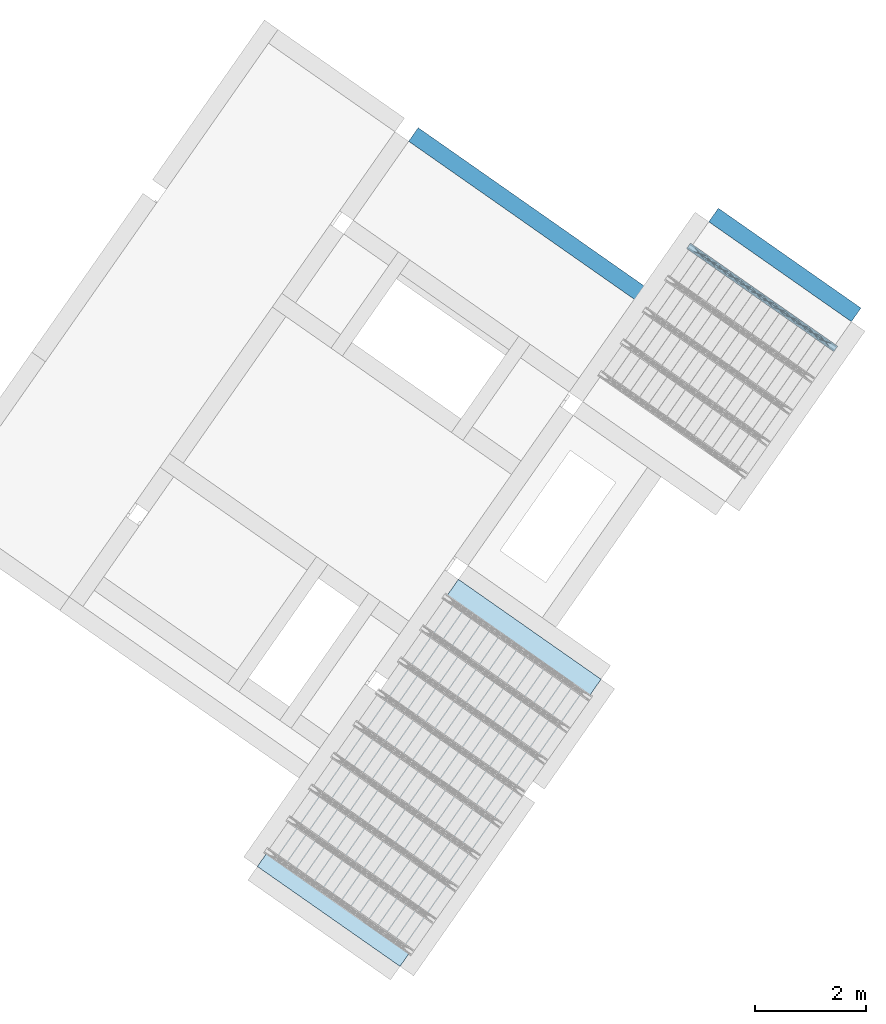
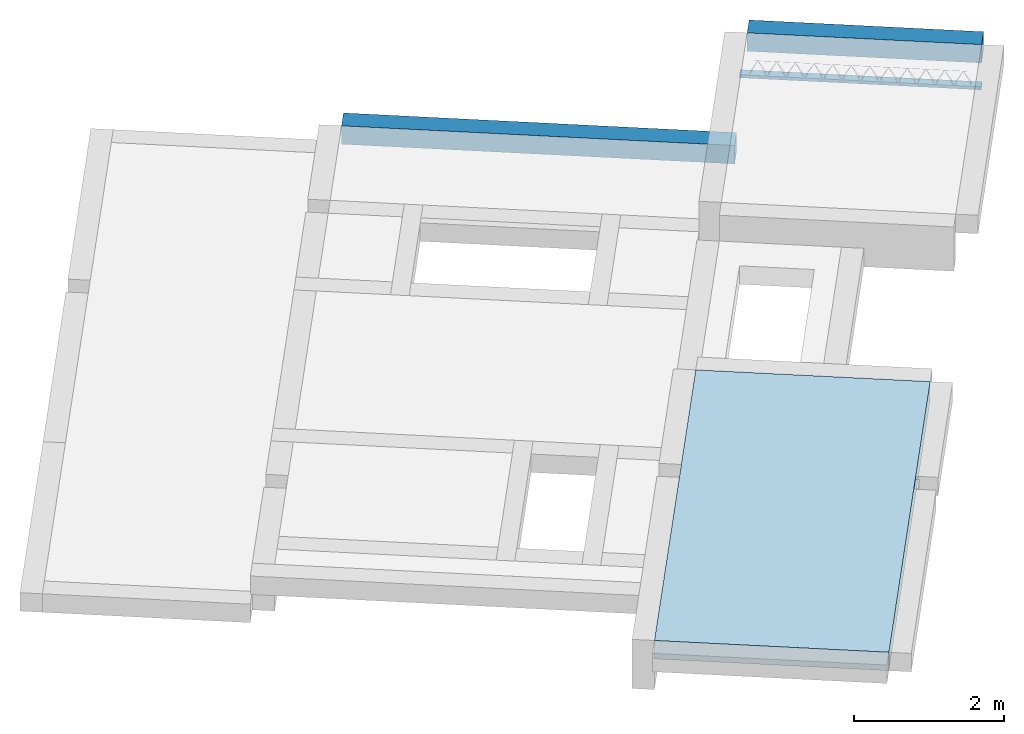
# One storey, part 28 of 46: 3 beams, 1 slab.
"""IFC2X3 building model written with IfcOpenShell, lengths in metres."""

from ifc_helpers import new_model, entity, si_unit, converted_unit, derived_unit, direction, frame, frame_2d, origin, origin_2d_with_axis, place, context, subcontext, project, spatial, rectangle, circle, extrude, material, type_object, element, save


model = new_model("IFC2X3")

# Units and contexts
model_context = context("Model", 3, precision=1e-05, world=origin(), true_north=direction((6.123031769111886e-17, 1.0)))
body_context = subcontext(model_context, "Body", "Model", "MODEL_VIEW")
ifc_project = project(units=[si_unit("LENGTHUNIT", "METRE"), si_unit("AREAUNIT", "SQUARE_METRE"), si_unit("VOLUMEUNIT", "CUBIC_METRE"), converted_unit("PLANEANGLEUNIT", "DEGREE", entity("IfcPlaneAngleMeasure", 0.017453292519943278), si_unit("PLANEANGLEUNIT", "RADIAN"), dimensions=[0, 0, 0, 0, 0, 0, 0]), si_unit("MASSUNIT", "GRAM", prefix="KILO"), derived_unit("MASSDENSITYUNIT", [(si_unit("MASSUNIT", "GRAM", prefix="KILO"), 1), (si_unit("LENGTHUNIT", "METRE"), -3)]), derived_unit("IONCONCENTRATIONUNIT", [(si_unit("MASSUNIT", "GRAM", prefix="KILO"), 1), (si_unit("LENGTHUNIT", "METRE"), -3)]), derived_unit("MOMENTOFINERTIAUNIT", [(si_unit("LENGTHUNIT", "METRE"), 4)]), si_unit("TIMEUNIT", "SECOND"), si_unit("FREQUENCYUNIT", "HERTZ"), si_unit("THERMODYNAMICTEMPERATUREUNIT", "DEGREE_CELSIUS"), derived_unit("THERMALTRANSMITTANCEUNIT", [(si_unit("MASSUNIT", "GRAM", prefix="KILO"), 1), (si_unit("THERMODYNAMICTEMPERATUREUNIT", "KELVIN"), -1), (si_unit("TIMEUNIT", "SECOND"), -3)]), derived_unit("THERMALCONDUCTANCEUNIT", [(si_unit("MASSUNIT", "GRAM", prefix="KILO"), 1), (si_unit("THERMODYNAMICTEMPERATUREUNIT", "KELVIN"), -1), (si_unit("TIMEUNIT", "SECOND"), -3), (si_unit("LENGTHUNIT", "METRE"), 1)]), derived_unit("VOLUMETRICFLOWRATEUNIT", [(si_unit("LENGTHUNIT", "METRE", prefix="DECI"), 3), (si_unit("TIMEUNIT", "SECOND"), -1)]), derived_unit("MASSFLOWRATEUNIT", [(si_unit("MASSUNIT", "GRAM", prefix="KILO"), 1), (si_unit("TIMEUNIT", "SECOND"), -1)]), derived_unit("ROTATIONALFREQUENCYUNIT", [(si_unit("TIMEUNIT", "SECOND"), -1)]), si_unit("ELECTRICCURRENTUNIT", "AMPERE"), si_unit("ELECTRICVOLTAGEUNIT", "VOLT"), si_unit("POWERUNIT", "WATT"), si_unit("FORCEUNIT", "NEWTON", prefix="KILO"), si_unit("ILLUMINANCEUNIT", "LUX"), si_unit("LUMINOUSFLUXUNIT", "LUMEN"), si_unit("LUMINOUSINTENSITYUNIT", "CANDELA"), si_unit("ENERGYUNIT", "JOULE"), derived_unit("USERDEFINED", [(si_unit("MASSUNIT", "GRAM", prefix="KILO"), -1), (si_unit("LENGTHUNIT", "METRE"), -2), (si_unit("TIMEUNIT", "SECOND"), 3), (si_unit("LUMINOUSFLUXUNIT", "LUMEN"), 1)]), derived_unit("USERDEFINED", [(si_unit("MASSUNIT", "GRAM", prefix="KILO"), 1), (si_unit("TIMEUNIT", "SECOND"), -3), (si_unit("LENGTHUNIT", "METRE"), 3), (si_unit("ELECTRICCURRENTUNIT", "AMPERE"), -2)]), derived_unit("SOUNDPOWERUNIT", [(si_unit("MASSUNIT", "GRAM", prefix="KILO"), 1), (si_unit("TIMEUNIT", "SECOND"), -3), (si_unit("LENGTHUNIT", "METRE"), 2)]), derived_unit("SOUNDPRESSUREUNIT", [(si_unit("MASSUNIT", "GRAM", prefix="KILO"), 1), (si_unit("LENGTHUNIT", "METRE"), -1), (si_unit("TIMEUNIT", "SECOND"), -2)]), derived_unit("LINEARVELOCITYUNIT", [(si_unit("LENGTHUNIT", "METRE"), 1), (si_unit("TIMEUNIT", "SECOND"), -1)]), si_unit("PRESSUREUNIT", "PASCAL"), derived_unit("USERDEFINED", [(si_unit("MASSUNIT", "GRAM", prefix="KILO"), 1), (si_unit("LENGTHUNIT", "METRE"), -2), (si_unit("TIMEUNIT", "SECOND"), -2)]), derived_unit("LINEARFORCEUNIT", [(si_unit("MASSUNIT", "GRAM", prefix="KILO"), 1), (si_unit("TIMEUNIT", "SECOND"), -2)]), derived_unit("PLANARFORCEUNIT", [(si_unit("MASSUNIT", "GRAM", prefix="KILO"), 1), (si_unit("LENGTHUNIT", "METRE"), -1), (si_unit("TIMEUNIT", "SECOND"), -2)]), derived_unit("SPECIFICHEATCAPACITYUNIT", [(si_unit("THERMODYNAMICTEMPERATUREUNIT", "KELVIN"), -1), (si_unit("LENGTHUNIT", "METRE"), 2), (si_unit("TIMEUNIT", "SECOND"), -2)]), derived_unit("HEATFLUXDENSITYUNIT", [(si_unit("MASSUNIT", "GRAM", prefix="KILO"), 1), (si_unit("TIMEUNIT", "SECOND"), -3)]), derived_unit("HEATINGVALUEUNIT", [(si_unit("LENGTHUNIT", "METRE"), 2), (si_unit("TIMEUNIT", "SECOND"), -2)]), derived_unit("VAPORPERMEABILITYUNIT", [(si_unit("LENGTHUNIT", "METRE"), -1), (si_unit("TIMEUNIT", "SECOND"), 1)]), derived_unit("DYNAMICVISCOSITYUNIT", [(si_unit("MASSUNIT", "GRAM", prefix="KILO"), 1), (si_unit("TIMEUNIT", "SECOND"), -1), (si_unit("LENGTHUNIT", "METRE"), -1)]), derived_unit("THERMALEXPANSIONCOEFFICIENTUNIT", [(si_unit("THERMODYNAMICTEMPERATUREUNIT", "KELVIN"), -1)]), derived_unit("MODULUSOFELASTICITYUNIT", [(si_unit("MASSUNIT", "GRAM", prefix="KILO"), 1), (si_unit("LENGTHUNIT", "METRE"), -1), (si_unit("TIMEUNIT", "SECOND"), -2)]), derived_unit("ISOTHERMALMOISTURECAPACITYUNIT", [(si_unit("MASSUNIT", "GRAM", prefix="KILO"), -1), (si_unit("LENGTHUNIT", "METRE"), 3)]), derived_unit("MOISTUREDIFFUSIVITYUNIT", [(si_unit("TIMEUNIT", "SECOND"), -1), (si_unit("LENGTHUNIT", "METRE"), 2)]), derived_unit("MASSPERLENGTHUNIT", [(si_unit("MASSUNIT", "GRAM", prefix="KILO"), 1), (si_unit("LENGTHUNIT", "METRE"), -1)]), derived_unit("THERMALRESISTANCEUNIT", [(si_unit("MASSUNIT", "GRAM", prefix="KILO"), -1), (si_unit("TIMEUNIT", "SECOND"), 3), (si_unit("THERMODYNAMICTEMPERATUREUNIT", "KELVIN"), 1)]), derived_unit("ACCELERATIONUNIT", [(si_unit("LENGTHUNIT", "METRE"), 1), (si_unit("TIMEUNIT", "SECOND"), -2)]), derived_unit("ANGULARVELOCITYUNIT", [(si_unit("TIMEUNIT", "SECOND"), -1), (si_unit("PLANEANGLEUNIT", "RADIAN"), 1)]), derived_unit("LINEARSTIFFNESSUNIT", [(si_unit("MASSUNIT", "GRAM", prefix="KILO"), 1), (si_unit("TIMEUNIT", "SECOND"), -2)]), derived_unit("WARPINGCONSTANTUNIT", [(si_unit("LENGTHUNIT", "METRE"), 6)]), derived_unit("LINEARMOMENTUNIT", [(si_unit("MASSUNIT", "GRAM", prefix="KILO"), 1), (si_unit("LENGTHUNIT", "METRE"), 1), (si_unit("TIMEUNIT", "SECOND"), -2)]), derived_unit("TORQUEUNIT", [(si_unit("MASSUNIT", "GRAM", prefix="KILO"), 1), (si_unit("LENGTHUNIT", "METRE"), 2), (si_unit("TIMEUNIT", "SECOND"), -2)])], contexts=[model_context])

# Site, building, storey
site_placement = place(None, origin())
site = spatial("IfcSite", under=ifc_project, at=site_placement, Name="Default", CompositionType="ELEMENT")
building_placement = place(site_placement, origin())
building = spatial("IfcBuilding", under=site, at=building_placement, CompositionType="ELEMENT")
storey_placement = place(building_placement, frame((0.0, 0.0, 99.52000000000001)))
storey = spatial("IfcBuildingStorey", under=building, at=storey_placement, Name="F1", CompositionType="ELEMENT", Elevation=99.52000000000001)

# Beams
beam_type = type_object("IfcBeamType", Name="Vigueta 5 (Paño 3) (Mf = 14.15)", PredefinedType="JOIST")
beam_1_placement = place(storey_placement, origin())
element("IfcBeam", 1, at=beam_1_placement, inside=storey, type_object=beam_type, Name="Vigueta 5 (Paño 3) (Mf = 14.15)", ObjectType="Mf = 14.15", context=body_context, shape_type="SweptSolid", body=[
    extrude(rectangle(XDim=3.24, YDim=0.11999999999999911, at=frame_2d((2.220446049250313e-16, -4.0592529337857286e-16), x_axis=(1.0, 0.0))), frame((13.411012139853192, 6.174728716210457, 0.2000000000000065), z_axis=(0.0, 0.0, 1.0), x_axis=(0.8191520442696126, -0.5735764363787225, 0.0)), (0.0, 0.0, 1.0), 0.04999999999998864),
    extrude(circle(Radius=0.0025, at=origin_2d_with_axis()), frame((14.69773005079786, 5.2298112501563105, 0.22500000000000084), z_axis=(-0.8191520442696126, 0.5735764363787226, 0.0), x_axis=(-0.5735764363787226, -0.8191520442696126, 0.0)), (0.0, 0.0, 1.0), 3.192),
    extrude(circle(Radius=0.0025, at=origin_2d_with_axis()), frame((12.243720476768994, 6.992075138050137, 0.4500000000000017), z_axis=(0.8191520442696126, -0.5735764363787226, 0.0), x_axis=(-0.5735764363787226, -0.8191520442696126, 0.0)), (0.0, 0.0, 1.0), 2.849999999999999),
    extrude(circle(Radius=0.0025, at=origin_2d_with_axis()), frame((14.619091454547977, 5.284874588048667, 0.22500000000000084), z_axis=(-0.3145304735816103, 0.389334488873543, 0.8657304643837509), x_axis=(-0.7778747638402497, -0.6284193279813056, 0.0)), (0.0, 0.0, 1.0), 0.2598961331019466),
    extrude(circle(Radius=0.0025, at=origin_2d_with_axis()), frame((14.414303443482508, 5.428268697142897, 0.22499999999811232), z_axis=(0.47343050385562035, -0.1624017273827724, 0.8657304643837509), x_axis=(-0.3244721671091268, -0.9458952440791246, 0.0)), (0.0, 0.0, 1.0), 0.25989613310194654),
    extrude(circle(Radius=0.0025, at=origin_2d_with_axis()), frame((14.414303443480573, 5.4282686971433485, 0.22500000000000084), z_axis=(-0.3145304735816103, 0.389334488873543, 0.8657304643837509), x_axis=(-0.7778747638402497, -0.6284193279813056, 0.0)), (0.0, 0.0, 1.0), 0.2598961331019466),
    extrude(circle(Radius=0.0025, at=origin_2d_with_axis()), frame((14.209515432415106, 5.571662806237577, 0.22499999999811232), z_axis=(0.47343050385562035, -0.1624017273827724, 0.8657304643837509), x_axis=(-0.3244721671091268, -0.9458952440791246, 0.0)), (0.0, 0.0, 1.0), 0.25989613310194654),
    extrude(circle(Radius=0.0025, at=origin_2d_with_axis()), frame((14.20951543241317, 5.571662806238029, 0.22500000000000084), z_axis=(-0.3145304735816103, 0.389334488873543, 0.8657304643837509), x_axis=(-0.7778747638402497, -0.6284193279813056, 0.0)), (0.0, 0.0, 1.0), 0.2598961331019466),
    extrude(circle(Radius=0.0025, at=origin_2d_with_axis()), frame((14.004727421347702, 5.715056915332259, 0.22499999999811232), z_axis=(0.47343050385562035, -0.1624017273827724, 0.8657304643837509), x_axis=(-0.3244721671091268, -0.9458952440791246, 0.0)), (0.0, 0.0, 1.0), 0.25989613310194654),
    extrude(circle(Radius=0.0025, at=origin_2d_with_axis()), frame((14.004727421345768, 5.715056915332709, 0.22500000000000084), z_axis=(-0.3145304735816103, 0.389334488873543, 0.8657304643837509), x_axis=(-0.7778747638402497, -0.6284193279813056, 0.0)), (0.0, 0.0, 1.0), 0.2598961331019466),
    extrude(circle(Radius=0.0025, at=origin_2d_with_axis()), frame((13.799939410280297, 5.858451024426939, 0.22499999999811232), z_axis=(0.47343050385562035, -0.1624017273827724, 0.8657304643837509), x_axis=(-0.3244721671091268, -0.9458952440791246, 0.0)), (0.0, 0.0, 1.0), 0.25989613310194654),
    extrude(circle(Radius=0.0025, at=origin_2d_with_axis()), frame((13.799939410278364, 5.85845102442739, 0.22500000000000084), z_axis=(-0.3145304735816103, 0.389334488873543, 0.8657304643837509), x_axis=(-0.7778747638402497, -0.6284193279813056, 0.0)), (0.0, 0.0, 1.0), 0.2598961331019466),
    extrude(circle(Radius=0.0025, at=origin_2d_with_axis()), frame((13.595151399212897, 6.001845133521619, 0.22499999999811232), z_axis=(0.47343050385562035, -0.1624017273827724, 0.8657304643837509), x_axis=(-0.3244721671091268, -0.9458952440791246, 0.0)), (0.0, 0.0, 1.0), 0.25989613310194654),
    extrude(circle(Radius=0.0025, at=origin_2d_with_axis()), frame((13.59515139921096, 6.001845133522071, 0.22500000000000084), z_axis=(-0.3145304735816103, 0.389334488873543, 0.8657304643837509), x_axis=(-0.7778747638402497, -0.6284193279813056, 0.0)), (0.0, 0.0, 1.0), 0.2598961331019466),
    extrude(circle(Radius=0.0025, at=origin_2d_with_axis()), frame((13.390363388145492, 6.1452392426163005, 0.22499999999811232), z_axis=(0.47343050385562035, -0.1624017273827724, 0.8657304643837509), x_axis=(-0.3244721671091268, -0.9458952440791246, 0.0)), (0.0, 0.0, 1.0), 0.25989613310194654),
    extrude(circle(Radius=0.0025, at=origin_2d_with_axis()), frame((13.390363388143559, 6.145239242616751, 0.22500000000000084), z_axis=(-0.3145304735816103, 0.389334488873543, 0.8657304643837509), x_axis=(-0.7778747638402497, -0.6284193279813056, 0.0)), (0.0, 0.0, 1.0), 0.2598961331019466),
    extrude(circle(Radius=0.0025, at=origin_2d_with_axis()), frame((13.18557537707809, 6.288633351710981, 0.22499999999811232), z_axis=(0.47343050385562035, -0.1624017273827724, 0.8657304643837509), x_axis=(-0.3244721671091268, -0.9458952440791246, 0.0)), (0.0, 0.0, 1.0), 0.25989613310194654),
    extrude(circle(Radius=0.0025, at=origin_2d_with_axis()), frame((13.185575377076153, 6.288633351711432, 0.22500000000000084), z_axis=(-0.3145304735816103, 0.389334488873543, 0.8657304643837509), x_axis=(-0.7778747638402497, -0.6284193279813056, 0.0)), (0.0, 0.0, 1.0), 0.2598961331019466),
    extrude(circle(Radius=0.0025, at=origin_2d_with_axis()), frame((12.980787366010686, 6.432027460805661, 0.22499999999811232), z_axis=(0.47343050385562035, -0.1624017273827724, 0.8657304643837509), x_axis=(-0.3244721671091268, -0.9458952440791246, 0.0)), (0.0, 0.0, 1.0), 0.25989613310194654),
    extrude(circle(Radius=0.0025, at=origin_2d_with_axis()), frame((12.980787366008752, 6.432027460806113, 0.22500000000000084), z_axis=(-0.3145304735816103, 0.389334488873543, 0.8657304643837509), x_axis=(-0.7778747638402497, -0.6284193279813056, 0.0)), (0.0, 0.0, 1.0), 0.2598961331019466),
    extrude(circle(Radius=0.0025, at=origin_2d_with_axis()), frame((12.775999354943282, 6.575421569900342, 0.22499999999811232), z_axis=(0.47343050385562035, -0.1624017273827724, 0.8657304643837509), x_axis=(-0.3244721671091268, -0.9458952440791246, 0.0)), (0.0, 0.0, 1.0), 0.25989613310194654),
    extrude(circle(Radius=0.0025, at=origin_2d_with_axis()), frame((12.775999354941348, 6.575421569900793, 0.22500000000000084), z_axis=(-0.3145304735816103, 0.389334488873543, 0.8657304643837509), x_axis=(-0.7778747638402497, -0.6284193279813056, 0.0)), (0.0, 0.0, 1.0), 0.2598961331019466),
    extrude(circle(Radius=0.0025, at=origin_2d_with_axis()), frame((12.57121134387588, 6.718815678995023, 0.22499999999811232), z_axis=(0.47343050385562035, -0.1624017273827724, 0.8657304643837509), x_axis=(-0.3244721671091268, -0.9458952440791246, 0.0)), (0.0, 0.0, 1.0), 0.25989613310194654),
    extrude(circle(Radius=0.0025, at=origin_2d_with_axis()), frame((12.571211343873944, 6.718815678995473, 0.22500000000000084), z_axis=(-0.3145304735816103, 0.389334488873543, 0.8657304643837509), x_axis=(-0.7778747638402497, -0.6284193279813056, 0.0)), (0.0, 0.0, 1.0), 0.2598961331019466),
    extrude(circle(Radius=0.0025, at=origin_2d_with_axis()), frame((12.366423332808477, 6.862209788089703, 0.22499999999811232), z_axis=(0.47343050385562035, -0.1624017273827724, 0.8657304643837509), x_axis=(-0.3244721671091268, -0.9458952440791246, 0.0)), (0.0, 0.0, 1.0), 0.25989613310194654),
    extrude(circle(Radius=0.0025, at=origin_2d_with_axis()), frame((12.366423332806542, 6.862209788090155, 0.22500000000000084), z_axis=(-0.3145304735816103, 0.389334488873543, 0.8657304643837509), x_axis=(-0.7778747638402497, -0.6284193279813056, 0.0)), (0.0, 0.0, 1.0), 0.2598961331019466),
    extrude(circle(Radius=0.0025, at=origin_2d_with_axis()), frame((12.161635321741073, 7.0056038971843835, 0.22499999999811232), z_axis=(0.47343050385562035, -0.1624017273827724, 0.8657304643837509), x_axis=(-0.3244721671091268, -0.9458952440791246, 0.0)), (0.0, 0.0, 1.0), 0.25989613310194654),
    extrude(circle(Radius=0.0025, at=origin_2d_with_axis()), frame((12.124294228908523, 7.119646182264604, 0.22500000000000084), z_axis=(0.8191520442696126, -0.5735764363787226, 0.0), x_axis=(-0.5735764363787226, -0.8191520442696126, 0.0)), (0.0, 0.0, 1.0), 3.1920000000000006),
    extrude(circle(Radius=0.0025, at=origin_2d_with_axis()), frame((14.660388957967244, 5.343853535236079, 0.22500000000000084), z_axis=(-0.47343050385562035, 0.1624017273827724, 0.8657304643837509), x_axis=(-0.3244721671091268, -0.9458952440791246, 0.0)), (0.0, 0.0, 1.0), 0.25989613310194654),
    extrude(circle(Radius=0.0025, at=origin_2d_with_axis()), frame((14.455600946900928, 5.487247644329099, 0.22499999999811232), z_axis=(0.3145304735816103, -0.389334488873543, 0.8657304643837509), x_axis=(-0.7778747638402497, -0.6284193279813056, 0.0)), (0.0, 0.0, 1.0), 0.2598961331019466),
    extrude(circle(Radius=0.0025, at=origin_2d_with_axis()), frame((14.45560094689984, 5.48724764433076, 0.22500000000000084), z_axis=(-0.47343050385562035, 0.1624017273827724, 0.8657304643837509), x_axis=(-0.3244721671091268, -0.9458952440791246, 0.0)), (0.0, 0.0, 1.0), 0.25989613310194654),
    extrude(circle(Radius=0.0025, at=origin_2d_with_axis()), frame((14.250812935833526, 5.630641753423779, 0.22499999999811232), z_axis=(0.3145304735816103, -0.389334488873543, 0.8657304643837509), x_axis=(-0.7778747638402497, -0.6284193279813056, 0.0)), (0.0, 0.0, 1.0), 0.2598961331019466),
    extrude(circle(Radius=0.0025, at=origin_2d_with_axis()), frame((14.250812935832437, 5.630641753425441, 0.22500000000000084), z_axis=(-0.47343050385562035, 0.1624017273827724, 0.8657304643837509), x_axis=(-0.3244721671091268, -0.9458952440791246, 0.0)), (0.0, 0.0, 1.0), 0.25989613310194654),
    extrude(circle(Radius=0.0025, at=origin_2d_with_axis()), frame((14.046024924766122, 5.774035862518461, 0.22499999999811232), z_axis=(0.3145304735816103, -0.389334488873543, 0.8657304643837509), x_axis=(-0.7778747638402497, -0.6284193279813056, 0.0)), (0.0, 0.0, 1.0), 0.2598961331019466),
    extrude(circle(Radius=0.0025, at=origin_2d_with_axis()), frame((14.046024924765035, 5.774035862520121, 0.22500000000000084), z_axis=(-0.47343050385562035, 0.1624017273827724, 0.8657304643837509), x_axis=(-0.3244721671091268, -0.9458952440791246, 0.0)), (0.0, 0.0, 1.0), 0.25989613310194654),
    extrude(circle(Radius=0.0025, at=origin_2d_with_axis()), frame((13.841236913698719, 5.917429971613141, 0.22499999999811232), z_axis=(0.3145304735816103, -0.389334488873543, 0.8657304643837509), x_axis=(-0.7778747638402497, -0.6284193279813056, 0.0)), (0.0, 0.0, 1.0), 0.2598961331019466),
    extrude(circle(Radius=0.0025, at=origin_2d_with_axis()), frame((13.841236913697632, 5.917429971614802, 0.22500000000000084), z_axis=(-0.47343050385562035, 0.1624017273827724, 0.8657304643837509), x_axis=(-0.3244721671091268, -0.9458952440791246, 0.0)), (0.0, 0.0, 1.0), 0.25989613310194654),
    extrude(circle(Radius=0.0025, at=origin_2d_with_axis()), frame((13.636448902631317, 6.060824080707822, 0.22499999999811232), z_axis=(0.3145304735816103, -0.389334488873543, 0.8657304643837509), x_axis=(-0.7778747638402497, -0.6284193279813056, 0.0)), (0.0, 0.0, 1.0), 0.2598961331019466),
    extrude(circle(Radius=0.0025, at=origin_2d_with_axis()), frame((13.636448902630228, 6.060824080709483, 0.22500000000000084), z_axis=(-0.47343050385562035, 0.1624017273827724, 0.8657304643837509), x_axis=(-0.3244721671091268, -0.9458952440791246, 0.0)), (0.0, 0.0, 1.0), 0.25989613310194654),
    extrude(circle(Radius=0.0025, at=origin_2d_with_axis()), frame((13.431660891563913, 6.204218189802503, 0.22499999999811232), z_axis=(0.3145304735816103, -0.389334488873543, 0.8657304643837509), x_axis=(-0.7778747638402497, -0.6284193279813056, 0.0)), (0.0, 0.0, 1.0), 0.2598961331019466),
    extrude(circle(Radius=0.0025, at=origin_2d_with_axis()), frame((13.431660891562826, 6.204218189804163, 0.22500000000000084), z_axis=(-0.47343050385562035, 0.1624017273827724, 0.8657304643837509), x_axis=(-0.3244721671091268, -0.9458952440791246, 0.0)), (0.0, 0.0, 1.0), 0.25989613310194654),
    extrude(circle(Radius=0.0025, at=origin_2d_with_axis()), frame((13.226872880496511, 6.347612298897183, 0.22499999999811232), z_axis=(0.3145304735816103, -0.389334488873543, 0.8657304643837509), x_axis=(-0.7778747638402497, -0.6284193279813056, 0.0)), (0.0, 0.0, 1.0), 0.2598961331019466),
    extrude(circle(Radius=0.0025, at=origin_2d_with_axis()), frame((13.226872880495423, 6.347612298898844, 0.22500000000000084), z_axis=(-0.47343050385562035, 0.1624017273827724, 0.8657304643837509), x_axis=(-0.3244721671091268, -0.9458952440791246, 0.0)), (0.0, 0.0, 1.0), 0.25989613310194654),
    extrude(circle(Radius=0.0025, at=origin_2d_with_axis()), frame((13.022084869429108, 6.491006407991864, 0.22499999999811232), z_axis=(0.3145304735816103, -0.389334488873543, 0.8657304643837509), x_axis=(-0.7778747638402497, -0.6284193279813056, 0.0)), (0.0, 0.0, 1.0), 0.2598961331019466),
    extrude(circle(Radius=0.0025, at=origin_2d_with_axis()), frame((13.022084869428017, 6.491006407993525, 0.22500000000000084), z_axis=(-0.47343050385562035, 0.1624017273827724, 0.8657304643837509), x_axis=(-0.3244721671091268, -0.9458952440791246, 0.0)), (0.0, 0.0, 1.0), 0.25989613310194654),
    extrude(circle(Radius=0.0025, at=origin_2d_with_axis()), frame((12.817296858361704, 6.6344005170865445, 0.22499999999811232), z_axis=(0.3145304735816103, -0.389334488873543, 0.8657304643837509), x_axis=(-0.7778747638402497, -0.6284193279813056, 0.0)), (0.0, 0.0, 1.0), 0.2598961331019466),
    extrude(circle(Radius=0.0025, at=origin_2d_with_axis()), frame((12.817296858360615, 6.634400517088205, 0.22500000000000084), z_axis=(-0.47343050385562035, 0.1624017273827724, 0.8657304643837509), x_axis=(-0.3244721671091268, -0.9458952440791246, 0.0)), (0.0, 0.0, 1.0), 0.25989613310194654),
    extrude(circle(Radius=0.0025, at=origin_2d_with_axis()), frame((12.612508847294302, 6.777794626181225, 0.22499999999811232), z_axis=(0.3145304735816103, -0.389334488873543, 0.8657304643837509), x_axis=(-0.7778747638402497, -0.6284193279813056, 0.0)), (0.0, 0.0, 1.0), 0.2598961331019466),
    extrude(circle(Radius=0.0025, at=origin_2d_with_axis()), frame((12.612508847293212, 6.777794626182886, 0.22500000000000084), z_axis=(-0.47343050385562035, 0.1624017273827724, 0.8657304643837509), x_axis=(-0.3244721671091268, -0.9458952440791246, 0.0)), (0.0, 0.0, 1.0), 0.25989613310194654),
    extrude(circle(Radius=0.0025, at=origin_2d_with_axis()), frame((12.407720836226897, 6.921188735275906, 0.22499999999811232), z_axis=(0.3145304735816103, -0.389334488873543, 0.8657304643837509), x_axis=(-0.7778747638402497, -0.6284193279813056, 0.0)), (0.0, 0.0, 1.0), 0.2598961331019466),
    extrude(circle(Radius=0.0025, at=origin_2d_with_axis()), frame((12.40772083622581, 6.921188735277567, 0.22500000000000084), z_axis=(-0.47343050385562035, 0.1624017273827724, 0.8657304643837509), x_axis=(-0.3244721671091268, -0.9458952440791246, 0.0)), (0.0, 0.0, 1.0), 0.25989613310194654),
    extrude(circle(Radius=0.0025, at=origin_2d_with_axis()), frame((12.202932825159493, 7.064582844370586, 0.22499999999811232), z_axis=(0.3145304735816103, -0.389334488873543, 0.8657304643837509), x_axis=(-0.7778747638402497, -0.6284193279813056, 0.0)), (0.0, 0.0, 1.0), 0.2598961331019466),
])
ifc_material = material(Name="Hormigón armado")
beam_2_placement = place(storey_placement, origin())
element("IfcBeam", 2, at=beam_2_placement, inside=storey, material=ifc_material, Name="Viga 13 (30x30)", ObjectType="30x30", context=body_context, shape_type="SweptSolid", body=[
    extrude(rectangle(XDim=0.3000000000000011, YDim=0.2999999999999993, at=frame_2d((3.0531133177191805e-16, 0.0), x_axis=(0.0, 1.0))), frame((7.122788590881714, 9.111639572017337, -0.15000000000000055), z_axis=(0.8191520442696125, -0.5735764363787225, 0.0), x_axis=(0.5735764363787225, 0.8191520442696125, 0.0)), (0.0, 0.0, 1.0), 5.265554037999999),
])
beam_3_placement = place(storey_placement, origin())
element("IfcBeam", 3, at=beam_3_placement, inside=storey, material=ifc_material, Name="Viga 14 (30x30)", ObjectType="30x30", context=body_context, shape_type="SweptSolid", body=[
    extrude(rectangle(XDim=0.3000000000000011, YDim=0.29999999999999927, at=frame_2d((0.0, 0.0), x_axis=(0.0, 1.0))), frame((12.534476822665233, 7.6601180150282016, 0.3500000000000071), z_axis=(0.8191520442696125, -0.5735764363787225, 0.0), x_axis=(0.5735764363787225, 0.8191520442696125, 0.0)), (0.0, 0.0, 1.0), 3.140000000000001),
])

# Slab
slab_type = type_object("IfcSlabType", Name="Forma directa:DirectShapeType 1092", PredefinedType="FLOOR")
slab_placement = place(storey_placement, origin())
element("IfcSlab", 4, at=slab_placement, inside=storey, type_object=slab_type, Name="Forma directa:DirectShapeType 1092", ObjectType="Forma directa:DirectShapeType 1092", PredefinedType="FLOOR", context=body_context, shape_type="SweptSolid", body=[
    extrude(rectangle(XDim=6.319999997, YDim=3.1399999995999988, at=frame_2d((0.7066525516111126, -0.023888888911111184), x_axis=(1.0, 0.0))), frame((7.832848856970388, -1.8333630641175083, 0.2000000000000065), z_axis=(0.0, 0.0, 1.0), x_axis=(-0.5735764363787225, -0.8191520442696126, 0.0)), (0.0, 0.0, 1.0), 0.3000000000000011),
])

save(model, "model.ifc")
